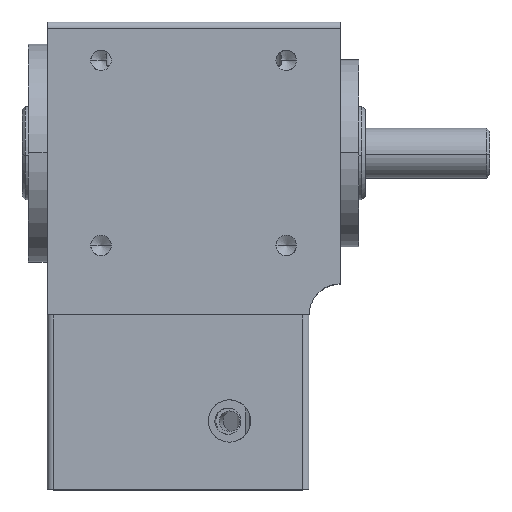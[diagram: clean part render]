
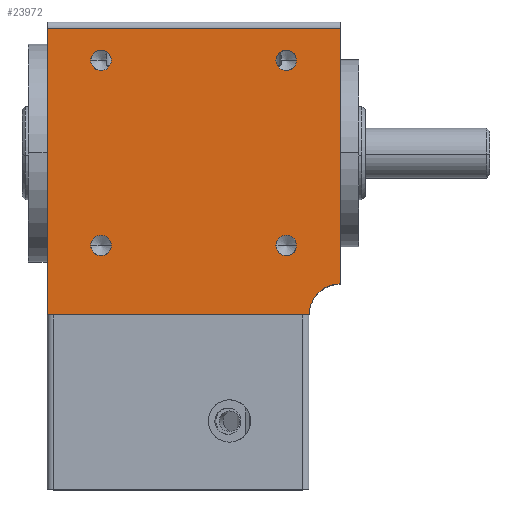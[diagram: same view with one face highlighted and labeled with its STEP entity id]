
A CAD part, top view. The second image highlights one B-rep face of the part: STEP entity #23972.
In plain terms, the highlighted planar face has unit normal (0, 0, 1).
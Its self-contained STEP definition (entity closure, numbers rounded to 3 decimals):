
#232 = CARTESIAN_POINT ( 'NONE',  ( 41.349, 17.349, 21. ) ) ;
#382 = DIRECTION ( 'NONE',  ( 1., 0., 0. ) ) ;
#482 = DIRECTION ( 'NONE',  ( 0., 0., 1. ) ) ;
#876 = AXIS2_PLACEMENT_3D ( 'NONE', #14920, #482, #17319 ) ;
#995 = CIRCLE ( 'NONE', #24343, 1.65 ) ;
#1016 = CARTESIAN_POINT ( 'NONE',  ( 3., 0., 21. ) ) ;
#1026 = VERTEX_POINT ( 'NONE', #23527 ) ;
#1315 = ORIENTED_EDGE ( 'NONE', *, *, #16187, .T. ) ;
#1319 = EDGE_LOOP ( 'NONE', ( #4311, #3091 ) ) ;
#1719 = EDGE_LOOP ( 'NONE', ( #28637, #5151 ) ) ;
#1917 = DIRECTION ( 'NONE',  ( 0., 0., 1. ) ) ;
#2215 = DIRECTION ( 'NONE',  ( 0., 0., -1. ) ) ;
#2612 = VECTOR ( 'NONE', #16726, 1000. ) ;
#2663 = DIRECTION ( 'NONE',  ( 1., 0., 0. ) ) ;
#2793 = ORIENTED_EDGE ( 'NONE', *, *, #3099, .F. ) ;
#2972 = VERTEX_POINT ( 'NONE', #20884 ) ;
#3091 = ORIENTED_EDGE ( 'NONE', *, *, #11649, .F. ) ;
#3099 = EDGE_CURVE ( 'NONE', #17178, #26969, #15388, .T. ) ;
#3654 = CIRCLE ( 'NONE', #20982, 1.65 ) ;
#3753 = CARTESIAN_POINT ( 'NONE',  ( 11.651, -12.349, 21. ) ) ;
#3901 = ORIENTED_EDGE ( 'NONE', *, *, #30317, .T. ) ;
#4007 = LINE ( 'NONE', #5631, #21613 ) ;
#4245 = ORIENTED_EDGE ( 'NONE', *, *, #11039, .F. ) ;
#4311 = ORIENTED_EDGE ( 'NONE', *, *, #14742, .F. ) ;
#4399 = CARTESIAN_POINT ( 'NONE',  ( 11.651, -12.349, 21. ) ) ;
#5151 = ORIENTED_EDGE ( 'NONE', *, *, #19789, .F. ) ;
#5269 = FACE_BOUND ( 'NONE', #1319, .T. ) ;
#5462 = DIRECTION ( 'NONE',  ( -1., 0., 0. ) ) ;
#5508 = CARTESIAN_POINT ( 'NONE',  ( 11.651, 17.349, 21. ) ) ;
#5631 = CARTESIAN_POINT ( 'NONE',  ( 53., 22.5, 21. ) ) ;
#5738 = VERTEX_POINT ( 'NONE', #15183 ) ;
#6030 = DIRECTION ( 'NONE',  ( 1., 0., 0. ) ) ;
#6200 = DIRECTION ( 'NONE',  ( 1., 0., 0. ) ) ;
#6512 = AXIS2_PLACEMENT_3D ( 'NONE', #3753, #20500, #6200 ) ;
#6761 = CARTESIAN_POINT ( 'NONE',  ( 3., -23.5, 21. ) ) ;
#6766 = AXIS2_PLACEMENT_3D ( 'NONE', #5508, #22198, #7959 ) ;
#6874 = DIRECTION ( 'NONE',  ( 1., 0., 0. ) ) ;
#7070 = CARTESIAN_POINT ( 'NONE',  ( 10.001, -12.349, 21. ) ) ;
#7196 = DIRECTION ( 'NONE',  ( 0., 0., 1. ) ) ;
#7959 = DIRECTION ( 'NONE',  ( 1., 0., 0. ) ) ;
#9267 = VERTEX_POINT ( 'NONE', #23872 ) ;
#9658 = CIRCLE ( 'NONE', #15192, 5. ) ;
#10529 = CARTESIAN_POINT ( 'NONE',  ( 13.301, -12.349, 21. ) ) ;
#11039 = EDGE_CURVE ( 'NONE', #24599, #1026, #29460, .T. ) ;
#11649 = EDGE_CURVE ( 'NONE', #21908, #12246, #21932, .T. ) ;
#11673 = FACE_OUTER_BOUND ( 'NONE', #23412, .T. ) ;
#11703 = CIRCLE ( 'NONE', #18473, 1.65 ) ;
#12162 = CIRCLE ( 'NONE', #6512, 1.65 ) ;
#12246 = VERTEX_POINT ( 'NONE', #10529 ) ;
#13530 = ORIENTED_EDGE ( 'NONE', *, *, #28550, .F. ) ;
#14175 = ORIENTED_EDGE ( 'NONE', *, *, #25488, .F. ) ;
#14742 = EDGE_CURVE ( 'NONE', #12246, #21908, #12162, .T. ) ;
#14811 = DIRECTION ( 'NONE',  ( 0., 0., 1. ) ) ;
#14920 = CARTESIAN_POINT ( 'NONE',  ( 11.651, 17.349, 21. ) ) ;
#14990 = CARTESIAN_POINT ( 'NONE',  ( 53., -23.5, 21. ) ) ;
#15183 = CARTESIAN_POINT ( 'NONE',  ( 42.999, 17.349, 21. ) ) ;
#15192 = AXIS2_PLACEMENT_3D ( 'NONE', #16594, #2215, #19023 ) ;
#15265 = EDGE_CURVE ( 'NONE', #29251, #21950, #30791, .T. ) ;
#15388 = LINE ( 'NONE', #16936, #2612 ) ;
#15441 = DIRECTION ( 'NONE',  ( 0., 1., 0. ) ) ;
#16187 = EDGE_CURVE ( 'NONE', #29251, #2972, #30763, .T. ) ;
#16300 = CARTESIAN_POINT ( 'NONE',  ( 41.349, -12.349, 21. ) ) ;
#16594 = CARTESIAN_POINT ( 'NONE',  ( 50., -23.5, 21. ) ) ;
#16726 = DIRECTION ( 'NONE',  ( 0., -1., 0. ) ) ;
#16936 = CARTESIAN_POINT ( 'NONE',  ( 50., 0., 21. ) ) ;
#17056 = DIRECTION ( 'NONE',  ( 0., 0., 1. ) ) ;
#17178 = VERTEX_POINT ( 'NONE', #23049 ) ;
#17319 = DIRECTION ( 'NONE',  ( 1., 0., 0. ) ) ;
#17992 = FACE_BOUND ( 'NONE', #23368, .T. ) ;
#18247 = ORIENTED_EDGE ( 'NONE', *, *, #15265, .F. ) ;
#18473 = AXIS2_PLACEMENT_3D ( 'NONE', #232, #17056, #2663 ) ;
#18683 = CARTESIAN_POINT ( 'NONE',  ( 50., -18.5, 21. ) ) ;
#18726 = DIRECTION ( 'NONE',  ( 1., 0., 0. ) ) ;
#19023 = DIRECTION ( 'NONE',  ( 1., 0., 0. ) ) ;
#19229 = AXIS2_PLACEMENT_3D ( 'NONE', #29142, #14811, #382 ) ;
#19269 = CIRCLE ( 'NONE', #876, 1.65 ) ;
#19768 = DIRECTION ( 'NONE',  ( 0., 0., -1. ) ) ;
#19789 = EDGE_CURVE ( 'NONE', #22218, #5738, #19963, .T. ) ;
#19802 = EDGE_CURVE ( 'NONE', #1026, #24599, #19269, .T. ) ;
#19963 = CIRCLE ( 'NONE', #19229, 1.65 ) ;
#20500 = DIRECTION ( 'NONE',  ( 0., 0., 1. ) ) ;
#20884 = CARTESIAN_POINT ( 'NONE',  ( 45., -23.5, 21. ) ) ;
#20982 = AXIS2_PLACEMENT_3D ( 'NONE', #21436, #7196, #23866 ) ;
#21128 = DIRECTION ( 'NONE',  ( 0., 0., 1. ) ) ;
#21407 = CARTESIAN_POINT ( 'NONE',  ( 3., 22.5, 21. ) ) ;
#21436 = CARTESIAN_POINT ( 'NONE',  ( 41.349, -12.349, 21. ) ) ;
#21613 = VECTOR ( 'NONE', #24760, 1000. ) ;
#21908 = VERTEX_POINT ( 'NONE', #7070 ) ;
#21932 = CIRCLE ( 'NONE', #24767, 1.65 ) ;
#21950 = VERTEX_POINT ( 'NONE', #21407 ) ;
#22198 = DIRECTION ( 'NONE',  ( 0., 0., 1. ) ) ;
#22218 = VERTEX_POINT ( 'NONE', #27760 ) ;
#22719 = CARTESIAN_POINT ( 'NONE',  ( 53., -23.5, 21. ) ) ;
#23013 = EDGE_CURVE ( 'NONE', #5738, #22218, #11703, .T. ) ;
#23049 = CARTESIAN_POINT ( 'NONE',  ( 50., 22.5, 21. ) ) ;
#23066 = AXIS2_PLACEMENT_3D ( 'NONE', #14990, #19768, #5462 ) ;
#23304 = EDGE_LOOP ( 'NONE', ( #14175, #25209 ) ) ;
#23368 = EDGE_LOOP ( 'NONE', ( #30536, #4245 ) ) ;
#23412 = EDGE_LOOP ( 'NONE', ( #13530, #18247, #1315, #3901, #2793 ) ) ;
#23527 = CARTESIAN_POINT ( 'NONE',  ( 13.301, 17.349, 21. ) ) ;
#23866 = DIRECTION ( 'NONE',  ( 1., 0., 0. ) ) ;
#23872 = CARTESIAN_POINT ( 'NONE',  ( 42.999, -12.349, 21. ) ) ;
#23972 = ADVANCED_FACE ( 'NONE', ( #11673, #17992, #5269, #30700, #29937 ), #26891, .F. ) ;
#24343 = AXIS2_PLACEMENT_3D ( 'NONE', #16300, #1917, #18726 ) ;
#24413 = VECTOR ( 'NONE', #6030, 1000. ) ;
#24451 = VECTOR ( 'NONE', #15441, 1000. ) ;
#24599 = VERTEX_POINT ( 'NONE', #31011 ) ;
#24760 = DIRECTION ( 'NONE',  ( 1., 0., 0. ) ) ;
#24767 = AXIS2_PLACEMENT_3D ( 'NONE', #4399, #21128, #6874 ) ;
#25209 = ORIENTED_EDGE ( 'NONE', *, *, #28001, .F. ) ;
#25289 = CARTESIAN_POINT ( 'NONE',  ( 39.699, -12.349, 21. ) ) ;
#25488 = EDGE_CURVE ( 'NONE', #9267, #28264, #995, .T. ) ;
#26891 = PLANE ( 'NONE',  #23066 ) ;
#26969 = VERTEX_POINT ( 'NONE', #18683 ) ;
#27760 = CARTESIAN_POINT ( 'NONE',  ( 39.699, 17.349, 21. ) ) ;
#28001 = EDGE_CURVE ( 'NONE', #28264, #9267, #3654, .T. ) ;
#28264 = VERTEX_POINT ( 'NONE', #25289 ) ;
#28550 = EDGE_CURVE ( 'NONE', #21950, #17178, #4007, .T. ) ;
#28637 = ORIENTED_EDGE ( 'NONE', *, *, #23013, .F. ) ;
#29142 = CARTESIAN_POINT ( 'NONE',  ( 41.349, 17.349, 21. ) ) ;
#29251 = VERTEX_POINT ( 'NONE', #6761 ) ;
#29460 = CIRCLE ( 'NONE', #6766, 1.65 ) ;
#29937 = FACE_BOUND ( 'NONE', #1719, .T. ) ;
#30317 = EDGE_CURVE ( 'NONE', #2972, #26969, #9658, .T. ) ;
#30536 = ORIENTED_EDGE ( 'NONE', *, *, #19802, .F. ) ;
#30700 = FACE_BOUND ( 'NONE', #23304, .T. ) ;
#30763 = LINE ( 'NONE', #22719, #24413 ) ;
#30791 = LINE ( 'NONE', #1016, #24451 ) ;
#31011 = CARTESIAN_POINT ( 'NONE',  ( 10.001, 17.349, 21. ) ) ;
